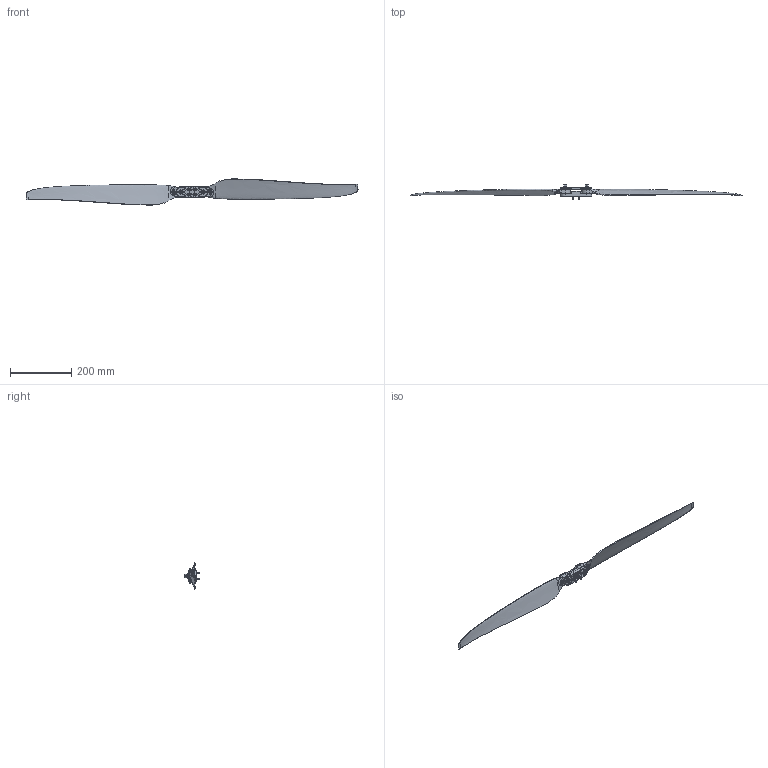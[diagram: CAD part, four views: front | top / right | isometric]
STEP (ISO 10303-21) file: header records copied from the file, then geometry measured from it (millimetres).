
FILE_DESCRIPTION (( 'STEP AP214' ), '1' );
FILE_NAME ('4314蔑珔蔑標-V2.1-CCW.STEP', '2025-04-27T10:51:55', ( '' ), ( '' ), 'SwSTEP 2.0', 'SolidWorks 2021', '' );
FILE_SCHEMA (( 'AUTOMOTIVE_DESIGN' ));
Length unit declared in the file: millimetre
Products named in the file (1): 4314蔑珔蔑標-V2.1-CCW
Bounding box: 1082.94 x 47.9 x 85.5 mm (x, y, z)
Volume: 308896.8 mm3; surface area: 142575 mm2
Topology: 3 solids, 5 shells, 2145 faces, 5365 edges, 3307 vertices
Faces by surface type: cylinder 731, cone 675, plane 669, bspline 50, torus 20
Entity records: 131719 total; most frequent: CARTESIAN_POINT 57558, ORIENTED_EDGE 10710, DIRECTION 10522, EDGE_CURVE 5355, AXIS2_PLACEMENT_3D 3915, VERTEX_POINT 3309, VECTOR 2692, LINE 2692
